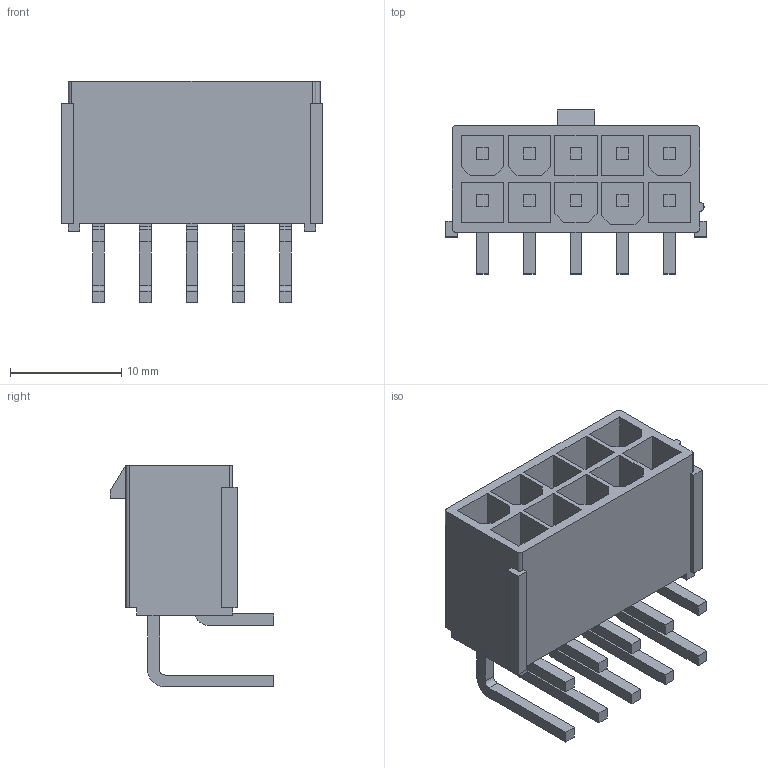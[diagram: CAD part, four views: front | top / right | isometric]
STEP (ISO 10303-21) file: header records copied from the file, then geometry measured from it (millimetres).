
FILE_DESCRIPTION((''),'2;1');
FILE_NAME('874271002','2013-07-16T',('me'),(''),'PRO/ENGINEER BY PARAMETRIC TECHNOLOGY CORPORATION, 2011490','PRO/ENGINEER BY PARAMETRIC TECHNOLOGY CORPORATION, 2011490','');
FILE_SCHEMA(('CONFIG_CONTROL_DESIGN'));
Length unit declared in the file: millimetre
Products named in the file (1): 874271002
Bounding box: 23.4 x 14.7 x 19.93 mm (x, y, z)
Volume: 1630.1 mm3; surface area: 3512.2 mm2
Topology: 1 solids, 1 shells, 235 faces, 607 edges, 404 vertices
Faces by surface type: plane 210, cylinder 25
Entity records: 7093 total; most frequent: CARTESIAN_POINT 1246, ORIENTED_EDGE 1214, DIRECTION 1127, EDGE_CURVE 607, VECTOR 557, LINE 557, VERTEX_POINT 404, AXIS2_PLACEMENT_3D 285
